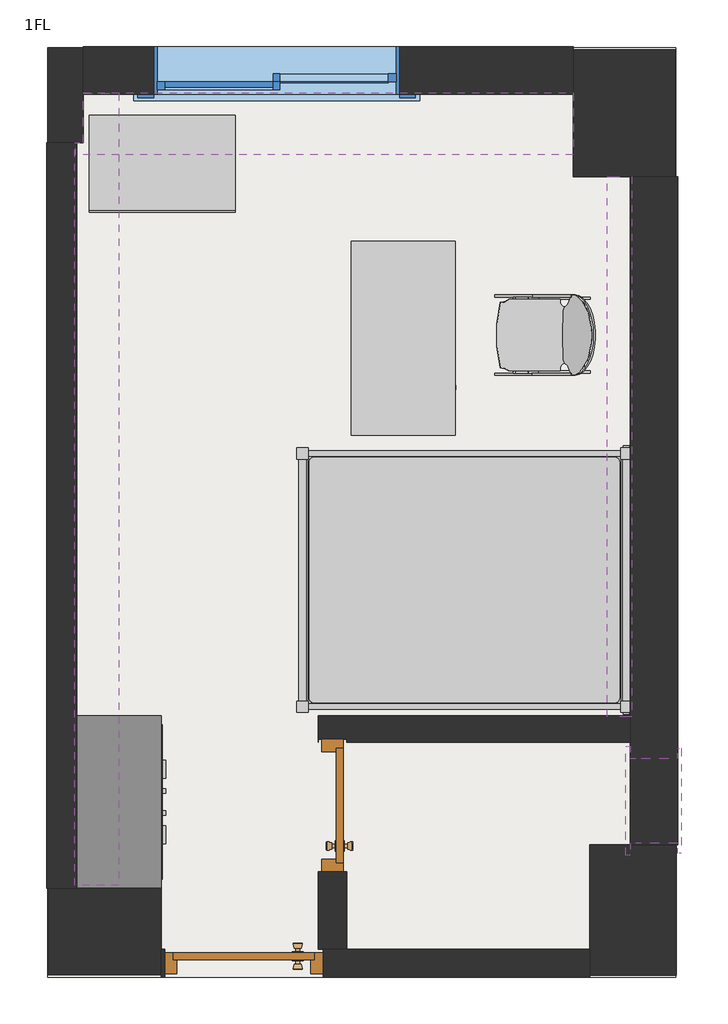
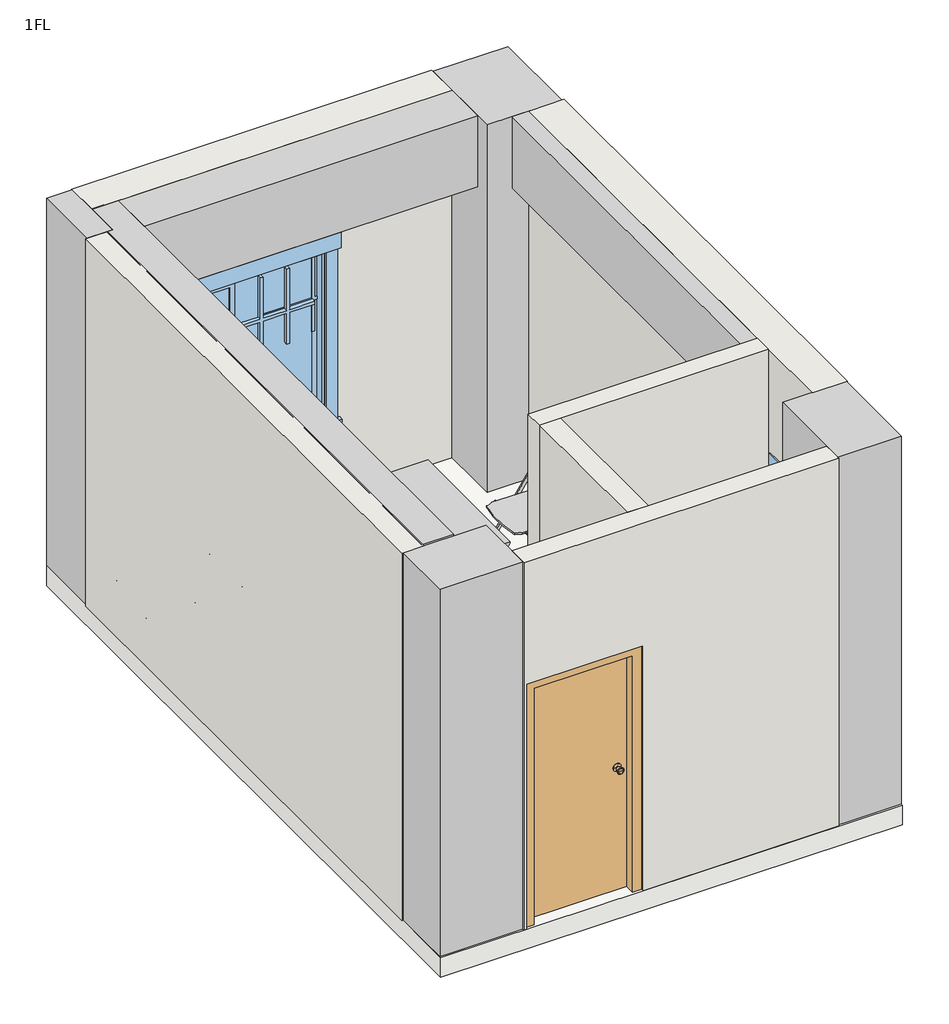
# One storey: 6 walls, 5 furniture elements, 4 columns, 3 beams, 2 doors, 2 windows, 1 slab.
"""IFC4 building model written with IfcOpenShell, lengths in millimetres."""

from ifc_helpers import new_model, si_unit, frame, origin, place, context, project, spatial, polyline, outline, extrude, faceted_brep, transform, mapped, element, save
from components import column_49_x_74cm_deb33982, door_75_x_200_cm_865d52c3, door_90_x_200_cm_73eb9ed9, furniture_3fc448d0, furniture_719fa588, furniture_f24e557b, furniture_dfe98725, china_bed_4dd21ba8, furniture_dc80c863, window_8c946150, window_f16435bf

model = new_model("IFC4")

# Units and contexts
model_context = context("Model", 3, world=origin())
ifc_project = project(units=[si_unit("LENGTHUNIT", "METRE", prefix="MILLI")], contexts=[model_context])

# Site, building, storey
site = spatial("IfcSite", under=ifc_project)
building = spatial("IfcBuilding", under=site)
storey = spatial("IfcBuildingStorey", under=building, Name="1FL", Elevation=300.0)

# Beams
placement = place(None, origin())
element("IfcBeam", 1, ObjectType="混凝土樑-矩形 : 14 x 303cm", at=placement, inside=storey, context=model_context, shape_type="SweptSolid", body=[
    extrude(outline(polyline([(2375.4977464, -2205.3821637), (2235.4977464, -2205.3821637), (2235.4977464, 857.1369238), (2375.4977464, 857.1369238), (2375.4977464, -2205.3821637)])), frame((0.0, 0.0, 2720.0), z_axis=(0.0, 0.0, 1.0), x_axis=(1.0, 0.0, 0.0)), (0.0, 0.0, 1.0), 580.0),
])
element("IfcBeam", 2, ObjectType="混凝土樑-矩形 : 25 x 451.5cm", at=placement, inside=storey, context=model_context, shape_type="Brep", body=[
    faceted_brep([(-534.5022536, 1331.667972, 3300.0), (-534.5022536, 1331.667972, 2800.0), (-736.8833533, 1331.667972, 2800.0), (-736.8833533, 1331.667972, 3300.0), (-534.5022536, -3161.032028, 3300.0), (-534.5022536, 982.1369238, 3300.0), (-736.8833533, 1048.967972, 3300.0), (-784.5022536, 1048.967972, 3300.0), (-784.5022536, -3161.032028, 3300.0), (-784.5022536, -3161.032028, 2800.0), (-784.5022536, 1048.967972, 2800.0), (-534.5022536, 982.1369238, 2800.0), (-534.5022536, -3161.032028, 2800.0), (-778.221975, 1048.967972, 2800.0), (-736.8833533, 1048.967972, 2800.0)], [[[0, 1, 2, 3]], [[4, 5, 0, 3, 6, 7, 8]], [[9, 8, 7, 10]], [[1, 11, 12, 9, 10, 13, 14, 2]], [[1, 0, 5, 4, 12, 11]], [[4, 8, 9, 12]], [[6, 14, 13, 10, 7]], [[14, 6, 3, 2]]]),
])
element("IfcBeam", 3, ObjectType="混凝土樑-矩形 : 35 x 283cm", at=placement, inside=storey, context=model_context, shape_type="Brep", body=[
    faceted_brep([(2041.778025, 982.1369238, 3300.0), (2041.778025, 1332.1369238, 3300.0), (-736.8833533, 1332.1369238, 3300.0), (-736.8833533, 1331.667972, 3300.0), (-534.5022536, 1331.667972, 3300.0), (-534.5022536, 982.1369238, 3300.0), (2041.778025, 1332.1369238, 2720.0), (-736.8833533, 1332.1369238, 2720.0), (2041.778025, 982.1369238, 2720.0), (-778.221975, 982.1369238, 2720.0), (-778.221975, 1048.967972, 2720.0), (-736.8833533, 1048.967972, 2720.0), (-534.5022536, 982.1369238, 2800.0), (-778.221975, 982.1369238, 2800.0), (-778.221975, 1048.967972, 2800.0), (-736.8833533, 1048.967972, 2800.0), (-736.8833533, 1331.667972, 2800.0), (-534.5022536, 1331.667972, 2800.0)], [[[0, 1, 2, 3, 4, 5]], [[1, 6, 7, 2]], [[8, 9, 10, 11, 7, 6]], [[9, 8, 0, 5, 12, 13]], [[10, 9, 13, 14]], [[1, 0, 8, 6]], [[11, 10, 14, 15]], [[2, 7, 11, 15, 16, 3]], [[17, 4, 3, 16]], [[17, 16, 15, 14, 13, 12]], [[4, 17, 12, 5]]]),
])

# Columns
element("IfcColumn", 4, ObjectType="混凝土柱-矩形 : 20 x 54cm", at=placement, inside=storey, context=model_context, shape_type="Brep", body=[
    faceted_brep([(-736.8833533, 1588.967972, 3300.0), (-936.8833533, 1588.967972, 3300.0), (-936.8833533, 1048.967972, 3300.0), (-784.5022536, 1048.967972, 3300.0), (-736.8833533, 1048.967972, 3300.0), (-736.8833533, 1331.667972, 3300.0), (-736.8833533, 1588.967972, 300.0), (-736.8833533, 1048.967972, 300.0), (-936.8833533, 1048.967972, 300.0), (-936.8833533, 1588.967972, 300.0), (-736.8833533, 1048.967972, 2800.0)], [[[0, 1, 2, 3, 4, 5]], [[6, 7, 8, 9]], [[1, 0, 6, 9]], [[2, 1, 9, 8]], [[4, 3, 2, 8, 7, 10]], [[0, 5, 4, 10, 7, 6]]]),
])
element("IfcColumn", 5, ObjectType="混凝土柱-矩形 : 49 x 64cm", at=placement, inside=storey, context=model_context, shape_type="SweptSolid", body=[
    extrude(outline(polyline([(-934.7018001, -3179.3416193), (-294.7018001, -3179.3416193), (-294.7018001, -3669.3416193), (-934.7018001, -3669.3416193), (-934.7018001, -3179.3416193)])), frame((0.0, 0.0, 300.0), z_axis=(0.0, 0.0, 1.0), x_axis=(1.0, 0.0, 0.0)), (0.0, 0.0, 1.0), 3000.0),
])
column_49_x_74cm_shape = column_49_x_74cm_deb33982(model_context)
element("IfcColumn", 6, ObjectType="混凝土柱-矩形 : 49 x 74cm", at=placement, inside=storey, context=model_context, shape_type="MappedRepresentation", body=[
    mapped(column_49_x_74cm_shape, transform((2382.7171048, -3302.3657238, 0.0), x_axis=(1.0, 0.0, 0.0), y_axis=(0.0, 1.0, 0.0), z_axis=(0.0, 0.0, 1.0))),
])
element("IfcColumn", 7, ObjectType="混凝土柱-矩形 : 58 x 72cm", at=placement, inside=storey, context=model_context, shape_type="SweptSolid", body=[
    extrude(outline(polyline([(2621.778025, 1577.1369238), (2621.778025, 857.1369238), (2041.778025, 857.1369238), (2041.778025, 1577.1369238), (2621.778025, 1577.1369238)])), frame((0.0, 0.0, 300.0), z_axis=(0.0, 0.0, 1.0), x_axis=(1.0, 0.0, 0.0)), (0.0, 0.0, 1.0), 3000.0),
])

# Doors
door_75_x_200_cm_shape = door_75_x_200_cm_865d52c3(model_context)
element("IfcDoor", 8, ObjectType="單開-矩形- (1) : 75 x 200 cm", at=placement, inside=storey, context=model_context, shape_type="MappedRepresentation", body=[
    mapped(door_75_x_200_cm_shape, transform((887.7171048, -2709.327457, 300.0), x_axis=(0.0, -1.0, 0.0), y_axis=(1.0, 0.0, 0.0), z_axis=(0.0, 0.0, 1.0))),
])
door_90_x_200_cm_shape = door_90_x_200_cm_73eb9ed9(model_context)
element("IfcDoor", 9, ObjectType="單開-矩形- (1) : 90 x 200 cm", at=placement, inside=storey, context=model_context, shape_type="MappedRepresentation", body=[
    mapped(door_90_x_200_cm_shape, transform((175.2981999, -3394.327457, 300.0), x_axis=(1.0, 0.0, 0.0), y_axis=(0.0, 1.0, 0.0), z_axis=(0.0, 0.0, 1.0))),
])

# Furniture
furniture_shape = furniture_3fc448d0(model_context)
element("IfcFurniture", 10, ObjectType="可摺疊椅 : 可摺疊椅", at=placement, inside=storey, context=model_context, shape_type="MappedRepresentation", body=[
    mapped(furniture_shape, transform((2140.4977464, 187.6342762, 300.0), x_axis=(0.0, -1.0000000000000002, 0.0), y_axis=(1.0000000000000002, 0.0, 0.0), z_axis=(0.0, 0.0, 1.0))),
])
furniture_2_shape = furniture_719fa588(model_context)
element("IfcFurniture", 11, ObjectType="桌子_009 : SB 6165 03 W1900*D590*H720", at=placement, inside=storey, context=model_context, shape_type="MappedRepresentation", body=[
    mapped(furniture_2_shape, transform((925.026465, -58.5193524, 300.0), x_axis=(0.0, 1.0, 0.0), y_axis=(-1.0, 0.0, 0.0), z_axis=(0.0, 0.0, 1.0))),
])
furniture_3_shape = furniture_f24e557b(model_context)
furniture_4_shape = furniture_dfe98725(model_context)
element("IfcFurniture", 12, ObjectType="邊櫃_002 : DB 3020N 01 W465*D550*H650", at=placement, inside=storey, context=model_context, shape_type="MappedRepresentation", body=[
    mapped(furniture_3_shape, transform((-287.9308905, 929.6989444, 300.0), x_axis=(1.0, 0.0, 0.0), y_axis=(0.0, 1.0, 0.0), z_axis=(0.0, 0.0, 1.0))),
    mapped(furniture_4_shape, transform((-287.9308905, 929.6989444, 300.0), x_axis=(1.0, 0.0, 0.0), y_axis=(0.0, 1.0, 0.0), z_axis=(0.0, 0.0, 1.0))),
])
china_bed_shape = china_bed_4dd21ba8(model_context)
element("IfcFurniture", 13, ObjectType="臥床_001 : China Bed", at=placement, inside=storey, context=model_context, shape_type="MappedRepresentation", body=[
    mapped(china_bed_shape, transform((2375.4977464, -1430.3252022, 300.0), x_axis=(0.0, 1.0000000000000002, 0.0), y_axis=(-1.0000000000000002, 0.0, 0.0), z_axis=(0.0, 0.0, 1.0))),
])
furniture_5_shape = furniture_dc80c863(model_context)
element("IfcFurniture", 14, ObjectType="Wardrobe : 48\" x 72\" x 24\"", at=placement, inside=storey, context=model_context, shape_type="MappedRepresentation", body=[
    mapped(furniture_5_shape, transform((-1123.2410632, -2420.1483595, 300.0), x_axis=(0.0, 1.0, 0.0), y_axis=(-1.0, 0.0, 0.0), z_axis=(0.0, 0.0, 1.0))),
])

# Slab
element("IfcSlab", 15, ObjectType="1FL_15cm", at=placement, inside=storey, context=model_context, shape_type="SweptSolid", body=[
    extrude(outline(polyline([(2625.4977464, 1588.967972), (2625.4977464, -3684.327457), (-936.8833533, -3684.327457), (-936.8833533, 1588.967972), (2625.4977464, 1588.967972)])), frame((0.0, 0.0, 140.0), z_axis=(0.0, 0.0, 1.0), x_axis=(1.0, 0.0, 0.0)), (0.0, 0.0, 1.0), 160.0),
])

# Walls
element("IfcWall", 16, ObjectType="1FL_北面_RC 牆_25cm", at=placement, inside=storey, context=model_context, shape_type="SweptSolid", body=[
    extrude(outline(polyline([(300.0, 2041.778025), (3300.0, 2041.778025), (3300.0, -736.8833533), (300.0, -736.8833533), (300.0, 2041.778025)]), holes=[polyline([(2332.0, -336.8833533), (2332.0, 1058.1166467), (942.0, 1058.1166467), (942.0, -336.8833533), (2332.0, -336.8833533)])]), frame((0.0, 1325.672543, 0.0), z_axis=(0.0, 1.0, 0.0), x_axis=(0.0, 0.0, 1.0)), (0.0, 0.0, 1.0), 270.0),
])
element("IfcWall", 17, ObjectType="1FL_東面_RC 牆_25cm", at=placement, inside=storey, context=model_context, shape_type="Brep", body=[
    faceted_brep([(2365.4977464, 857.1369238, 300.0), (2365.4977464, -2199.327457, 300.0), (2365.4977464, -2349.327457, 300.0), (2365.4977464, -2932.3657238, 300.0), (2365.4977464, -2932.3657238, 3300.0), (2365.4977464, -2349.327457, 3300.0), (2365.4977464, -2199.327457, 3300.0), (2365.4977464, 857.1369238, 3300.0), (2365.4977464, -2442.5157238, 2400.0), (2365.4977464, -2922.5157238, 2400.0), (2365.4977464, -2922.5157238, 1900.0), (2365.4977464, -2442.5157238, 1900.0), (2635.4977464, 857.1369238, 300.0), (2635.4977464, 857.1369238, 3300.0), (2635.4977464, -2932.3657238, 3300.0), (2635.4977464, -2932.3657238, 300.0), (2635.4977464, -2442.5157238, 2400.0), (2635.4977464, -2442.5157238, 1900.0), (2635.4977464, -2922.5157238, 1900.0), (2635.4977464, -2922.5157238, 2400.0)], [[[0, 1, 2, 3, 4, 5, 6, 7], [8, 9, 10, 11]], [[12, 13, 14, 15], [16, 17, 18, 19]], [[3, 2, 1, 0, 12, 15]], [[4, 3, 15, 14]], [[7, 6, 5, 4, 14, 13]], [[0, 7, 13, 12]], [[17, 16, 8, 11]], [[18, 17, 11, 10]], [[19, 18, 10, 9]], [[16, 19, 9, 8]]]),
])
element("IfcWall", 18, ObjectType="1FL_西面_RC 牆_15cm", at=placement, inside=storey, context=model_context, shape_type="SweptSolid", body=[
    extrude(outline(polyline([(-944.5022536, -3179.3416193), (-944.5022536, 1048.967972), (-774.5022536, 1048.967972), (-774.5022536, -3179.3416193), (-944.5022536, -3179.3416193)])), frame((0.0, 0.0, 300.0), z_axis=(0.0, 0.0, 1.0), x_axis=(1.0, 0.0, 0.0)), (0.0, 0.0, 1.0), 3000.0),
])
element("IfcWall", 19, ObjectType="RC 牆 15cm", at=placement, inside=storey, context=model_context, shape_type="Brep", body=[
    faceted_brep([(2365.4977464, -2199.327457, 300.0), (595.4977464, -2199.327457, 300.0), (595.4977464, -2199.327457, 3300.0), (2365.4977464, -2199.327457, 3300.0), (595.4977464, -2349.327457, 3300.0), (595.4977464, -2349.327457, 300.0), (597.7171048, -2349.327457, 300.0), (597.7171048, -2349.327457, 2300.0), (757.7171048, -2349.327457, 2300.0), (757.7171048, -2349.327457, 300.0), (2365.4977464, -2349.327457, 300.0), (2365.4977464, -2349.327457, 3300.0), (757.7171048, -2349.327457, 3300.0), (597.7171048, -2349.327457, 3300.0), (757.7171048, -2334.327457, 300.0), (597.7171048, -2334.327457, 300.0), (597.7171048, -2334.327457, 2300.0), (757.7171048, -2334.327457, 2300.0)], [[[0, 1, 2, 3]], [[4, 5, 6, 7, 8, 9, 10, 11, 12, 13]], [[1, 0, 10, 9, 14, 15, 6, 5]], [[2, 1, 5, 4]], [[3, 2, 4, 13, 12, 11]], [[0, 3, 11, 10]], [[15, 16, 7, 6]], [[17, 14, 9, 8]], [[16, 17, 8, 7]], [[16, 15, 14, 17]]]),
])
element("IfcWall", 20, ObjectType="RC 牆 13cm", at=placement, inside=storey, context=model_context, shape_type="Brep", body=[
    faceted_brep([(-294.7018001, -3524.327457, 300.0), (-294.7018001, -3524.327457, 3300.0), (597.7171048, -3524.327457, 3300.0), (757.7171048, -3524.327457, 3300.0), (2137.7171048, -3524.327457, 3300.0), (2137.7171048, -3524.327457, 300.0), (757.7171048, -3524.327457, 300.0), (625.2981999, -3524.327457, 300.0), (625.2981999, -3524.327457, 2300.0), (-274.7018001, -3524.327457, 2300.0), (-274.7018001, -3524.327457, 300.0), (2137.7171048, -3684.327457, 300.0), (2137.7171048, -3684.327457, 3300.0), (-294.7018001, -3684.327457, 3300.0), (-294.7018001, -3684.327457, 300.0), (-274.7018001, -3684.327457, 300.0), (-274.7018001, -3684.327457, 2300.0), (625.2981999, -3684.327457, 2300.0), (625.2981999, -3684.327457, 300.0)], [[[0, 1, 2, 3, 4, 5, 6, 7, 8, 9, 10]], [[11, 12, 13, 14, 15, 16, 17, 18]], [[5, 11, 18, 7, 6]], [[14, 0, 10, 15]], [[1, 0, 14, 13]], [[4, 3, 2, 1, 13, 12]], [[5, 4, 12, 11]], [[17, 8, 7, 18]], [[8, 17, 16, 9]], [[9, 16, 15, 10]]]),
])
element("IfcWall", 21, ObjectType="RC 牆 13cm", at=placement, inside=storey, context=model_context, shape_type="Brep", body=[
    faceted_brep([(757.7171048, -2349.327457, 3300.0), (757.7171048, -3524.327457, 3300.0), (757.7171048, -3524.327457, 300.0), (757.7171048, -3084.327457, 300.0), (757.7171048, -3084.327457, 2300.0), (757.7171048, -2349.327457, 2300.0), (597.7171048, -3524.327457, 300.0), (597.7171048, -3524.327457, 3300.0), (597.7171048, -2349.327457, 3300.0), (597.7171048, -2349.327457, 2300.0), (597.7171048, -3084.327457, 2300.0), (597.7171048, -3084.327457, 300.0), (625.2981999, -3524.327457, 300.0)], [[[0, 1, 2, 3, 4, 5]], [[6, 7, 8, 9, 10, 11]], [[2, 12, 6, 11, 3]], [[1, 0, 8, 7]], [[8, 0, 5, 9]], [[2, 1, 7, 6, 12]], [[10, 4, 3, 11]], [[4, 10, 9, 5]]]),
])

# Windows
window_shape = window_8c946150(model_context)
element("IfcWindow", 22, ObjectType="窗_002 : 窗_002", at=placement, inside=storey, context=model_context, shape_type="MappedRepresentation", body=[
    mapped(window_shape, transform((11.8666467, 1460.672543, 300.0), x_axis=(-1.0, 0.0, 0.0), y_axis=(0.0, -1.0, 0.0), z_axis=(0.0, 0.0, 1.0))),
])
window_2_shape = window_f16435bf(model_context)
element("IfcWindow", 23, ObjectType="Casement Dbl with Trim : 48\" x 48\"", at=placement, inside=storey, context=model_context, shape_type="MappedRepresentation", body=[
    mapped(window_2_shape, transform((2519.5477464, -2682.5157238, 985.6), x_axis=(0.0, 1.0, 0.0), y_axis=(-1.0, 0.0, 0.0), z_axis=(0.0, 0.0, 1.0))),
])

save(model, "model.ifc")
